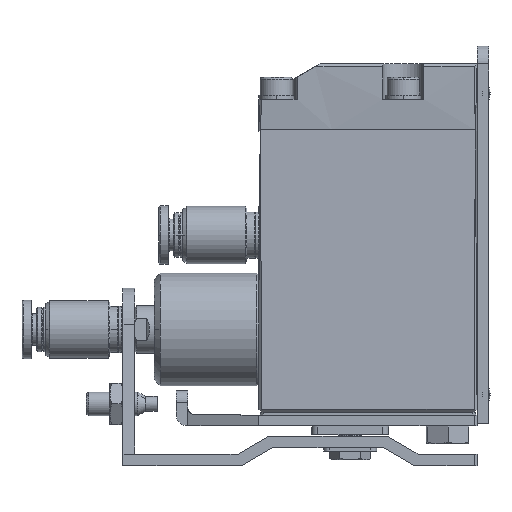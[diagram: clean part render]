
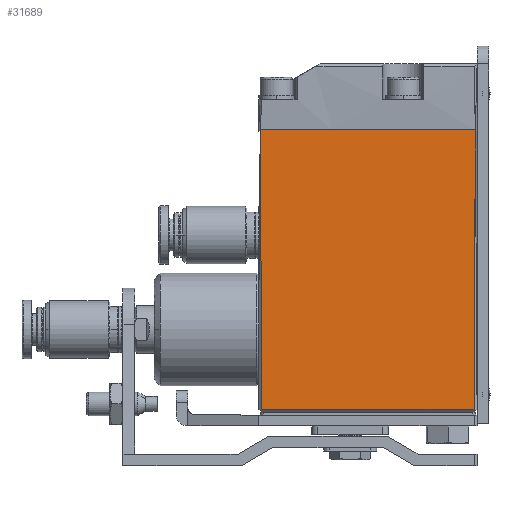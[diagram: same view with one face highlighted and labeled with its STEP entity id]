
A CAD part, left-side view. The second image highlights one B-rep face of the part: STEP entity #31689.
In plain terms, the highlighted planar face has unit normal (-1, 0, 0).
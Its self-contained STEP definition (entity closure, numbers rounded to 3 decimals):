
#158 = EDGE_CURVE ( 'NONE', #33518, #3801, #32966, .T. ) ;
#615 = CARTESIAN_POINT ( 'NONE',  ( 0., -3.1, -4.2 ) ) ;
#1123 = ORIENTED_EDGE ( 'NONE', *, *, #43652, .T. ) ;
#3801 = VERTEX_POINT ( 'NONE', #21140 ) ;
#4122 = PLANE ( 'NONE',  #16513 ) ;
#4269 = DIRECTION ( 'NONE',  ( 0., 0., 1. ) ) ;
#5060 = ORIENTED_EDGE ( 'NONE', *, *, #158, .T. ) ;
#6296 = LINE ( 'NONE', #36886, #42213 ) ;
#7228 = ORIENTED_EDGE ( 'NONE', *, *, #11770, .T. ) ;
#7440 = ORIENTED_EDGE ( 'NONE', *, *, #42642, .F. ) ;
#9213 = LINE ( 'NONE', #27153, #27252 ) ;
#11770 = EDGE_CURVE ( 'NONE', #3801, #24735, #46162, .T. ) ;
#13834 = VECTOR ( 'NONE', #17064, 1000. ) ;
#16513 = AXIS2_PLACEMENT_3D ( 'NONE', #615, #25893, #4269 ) ;
#17064 = DIRECTION ( 'NONE',  ( 0., 0., 1. ) ) ;
#17759 = CARTESIAN_POINT ( 'NONE',  ( 0., 0.5, 24. ) ) ;
#19984 = EDGE_LOOP ( 'NONE', ( #5060, #7228, #1123, #7440 ) ) ;
#21140 = CARTESIAN_POINT ( 'NONE',  ( 0.255, 0.3, 47.8 ) ) ;
#24735 = VERTEX_POINT ( 'NONE', #34236 ) ;
#25893 = DIRECTION ( 'NONE',  ( -1., 0., 0. ) ) ;
#27133 = CARTESIAN_POINT ( 'NONE',  ( 0., 36.5, 0.5 ) ) ;
#27153 = CARTESIAN_POINT ( 'NONE',  ( 0., 36.5, 24. ) ) ;
#27195 = VECTOR ( 'NONE', #27517, 1000. ) ;
#27252 = VECTOR ( 'NONE', #34013, 1000. ) ;
#27517 = DIRECTION ( 'NONE',  ( 0., 1., 0. ) ) ;
#31689 = ADVANCED_FACE ( 'NONE', ( #34928 ), #4122, .T. ) ;
#32966 = LINE ( 'NONE', #17759, #13834 ) ;
#33518 = VERTEX_POINT ( 'NONE', #36674 ) ;
#34013 = DIRECTION ( 'NONE',  ( 0., 0., -1. ) ) ;
#34236 = CARTESIAN_POINT ( 'NONE',  ( 0.255, 36.7, 47.8 ) ) ;
#34928 = FACE_OUTER_BOUND ( 'NONE', #19984, .T. ) ;
#36674 = CARTESIAN_POINT ( 'NONE',  ( 0., 0.5, 0.5 ) ) ;
#36886 = CARTESIAN_POINT ( 'NONE',  ( 0., 18.5, 0.5 ) ) ;
#37046 = DIRECTION ( 'NONE',  ( 0., 1., 0. ) ) ;
#42213 = VECTOR ( 'NONE', #37046, 1000. ) ;
#42642 = EDGE_CURVE ( 'NONE', #33518, #45918, #6296, .T. ) ;
#43652 = EDGE_CURVE ( 'NONE', #24735, #45918, #9213, .T. ) ;
#45152 = CARTESIAN_POINT ( 'NONE',  ( 0., 18.5, 47.5 ) ) ;
#45918 = VERTEX_POINT ( 'NONE', #27133 ) ;
#46162 = LINE ( 'NONE', #45152, #27195 ) ;
